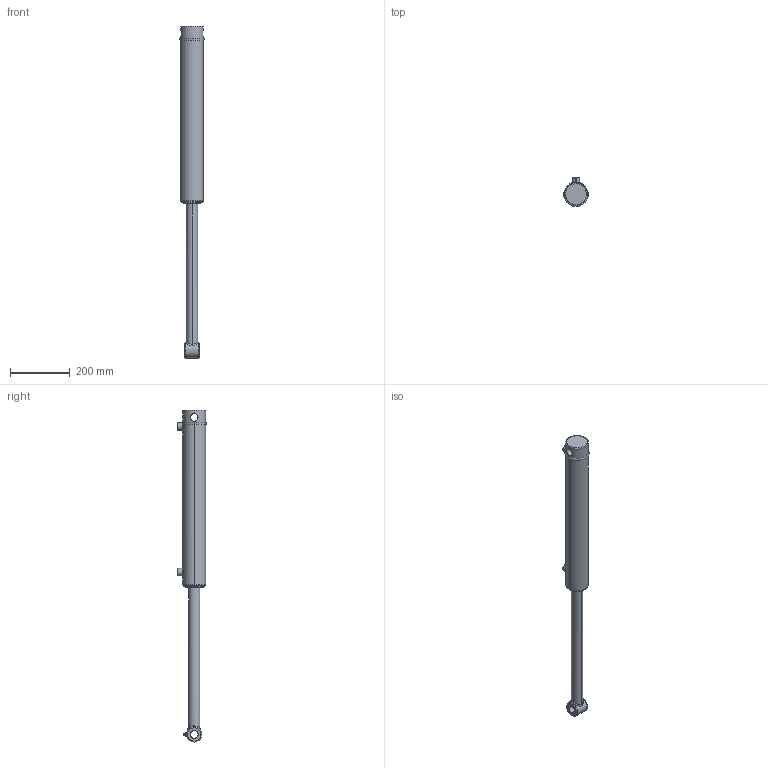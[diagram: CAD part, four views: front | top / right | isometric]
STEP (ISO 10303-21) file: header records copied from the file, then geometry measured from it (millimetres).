
FILE_DESCRIPTION (( 'STEP AP203' ), '1' );
FILE_NAME ('SB-C250150x457 (18) extended.STEP', '2014-11-19T01:19:59', ( '' ), ( '' ), 'SwSTEP 2.0', 'SolidWorks 2014', '' );
FILE_SCHEMA (( 'CONFIG_CONTROL_DESIGN' ));
Length unit declared in the file: millimetre
Products named in the file (7): 18 NPT GREASE NIPPLE; SPARE 18; SB-C250250X457 (18) BODY; SB-C250150x457 (18) extended; 2.5 INCH CIRCLIP; SB-C250150x457 (18) BODY; 18 SPARE
Assembly tree (6 placements, depth 3):
  SB-C250150x457 (18) extended
    SB-C250150x457 (18) BODY
      SB-C250250X457 (18) BODY
      2.5 INCH CIRCLIP
    SPARE 18
      18 SPARE
      18 NPT GREASE NIPPLE
Bounding box: 82.2 x 97.2 x 1115.4 mm (x, y, z)
Volume: 3088159.2 mm3; surface area: 275968 mm2
Topology: 4 solids, 4 shells, 135 faces, 315 edges, 197 vertices
Faces by surface type: cylinder 51, plane 29, cone 22, bspline 19, torus 12, sphere 2
Entity records: 10875 total; most frequent: CARTESIAN_POINT 7141, DIRECTION 640, ORIENTED_EDGE 622, EDGE_CURVE 311, AXIS2_PLACEMENT_3D 271, VERTEX_POINT 197, EDGE_LOOP 160, CIRCLE 144
